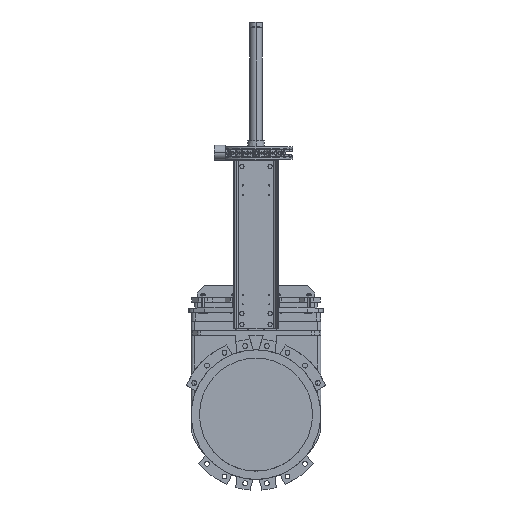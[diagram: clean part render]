
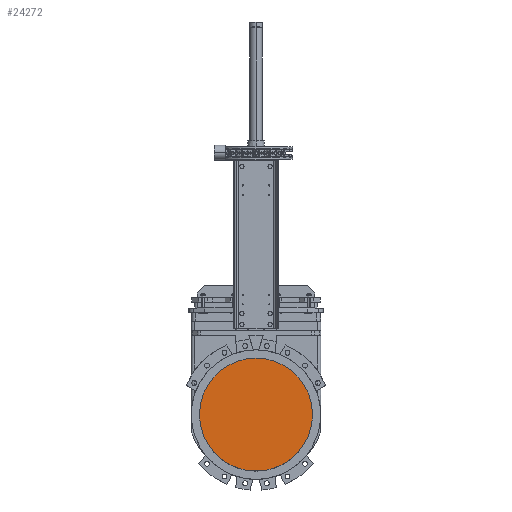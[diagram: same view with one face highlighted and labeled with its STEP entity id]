
A CAD part, top view. The second image highlights one B-rep face of the part: STEP entity #24272.
In plain terms, the highlighted planar face has unit normal (0, 0, 1).
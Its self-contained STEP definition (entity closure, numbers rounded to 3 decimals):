
#16369 = CIRCLE ( 'NONE', #16437, 259. ) ;
#16371 = CARTESIAN_POINT ( 'NONE',  ( -240., 97.37, 6. ) ) ;
#16433 = CARTESIAN_POINT ( 'NONE',  ( 240., 97.37, 6. ) ) ;
#16434 = DIRECTION ( 'NONE',  ( 1., 0., 0. ) ) ;
#16435 = DIRECTION ( 'NONE',  ( 0., 0., 1. ) ) ;
#16436 = CARTESIAN_POINT ( 'NONE',  ( 0., 0., 6. ) ) ;
#16437 = AXIS2_PLACEMENT_3D ( 'NONE', #16436, #16435, #16434 ) ;
#24197 = EDGE_LOOP ( 'NONE', ( #24248, #24250, #24251, #24254 ) ) ;
#24198 = VERTEX_POINT ( 'NONE', #44030 ) ;
#24248 = ORIENTED_EDGE ( 'NONE', *, *, #24249, .T. ) ;
#24249 = EDGE_CURVE ( 'NONE', #24198, #33479, #44082, .T. ) ;
#24250 = ORIENTED_EDGE ( 'NONE', *, *, #33477, .T. ) ;
#24251 = ORIENTED_EDGE ( 'NONE', *, *, #24252, .F. ) ;
#24252 = EDGE_CURVE ( 'NONE', #24253, #33474, #44078, .T. ) ;
#24253 = VERTEX_POINT ( 'NONE', #44074 ) ;
#24254 = ORIENTED_EDGE ( 'NONE', *, *, #24255, .T. ) ;
#24255 = EDGE_CURVE ( 'NONE', #24253, #24198, #44072, .T. ) ;
#24272 = ADVANCED_FACE ( 'NONE', ( #44112 ), #44108, .T. ) ;
#33474 = VERTEX_POINT ( 'NONE', #16371 ) ;
#33477 = EDGE_CURVE ( 'NONE', #33479, #33474, #16369, .T. ) ;
#33479 = VERTEX_POINT ( 'NONE', #16433 ) ;
#44030 = CARTESIAN_POINT ( 'NONE',  ( 240., -61.623, 6. ) ) ;
#44068 = DIRECTION ( 'NONE',  ( 1., 0., 0. ) ) ;
#44069 = DIRECTION ( 'NONE',  ( 0., 0., 1. ) ) ;
#44070 = CARTESIAN_POINT ( 'NONE',  ( 0., 20., 6. ) ) ;
#44071 = AXIS2_PLACEMENT_3D ( 'NONE', #44070, #44069, #44068 ) ;
#44072 = CIRCLE ( 'NONE', #44071, 253.5 ) ;
#44074 = CARTESIAN_POINT ( 'NONE',  ( -240., -61.623, 6. ) ) ;
#44075 = DIRECTION ( 'NONE',  ( 0., 1., 0. ) ) ;
#44076 = VECTOR ( 'NONE', #44075, 1000. ) ;
#44077 = CARTESIAN_POINT ( 'NONE',  ( -240., -306.555, 6. ) ) ;
#44078 = LINE ( 'NONE', #44077, #44076 ) ;
#44079 = DIRECTION ( 'NONE',  ( 0., 1., 0. ) ) ;
#44080 = VECTOR ( 'NONE', #44079, 1000. ) ;
#44081 = CARTESIAN_POINT ( 'NONE',  ( 240., -306.555, 6. ) ) ;
#44082 = LINE ( 'NONE', #44081, #44080 ) ;
#44103 = DIRECTION ( 'NONE',  ( 1., 0., 0. ) ) ;
#44104 = DIRECTION ( 'NONE',  ( 0., 0., 1. ) ) ;
#44105 = CARTESIAN_POINT ( 'NONE',  ( -240., -306.555, 6. ) ) ;
#44107 = AXIS2_PLACEMENT_3D ( 'NONE', #44105, #44104, #44103 ) ;
#44108 = PLANE ( 'NONE',  #44107 ) ;
#44112 = FACE_OUTER_BOUND ( 'NONE', #24197, .T. ) ;
